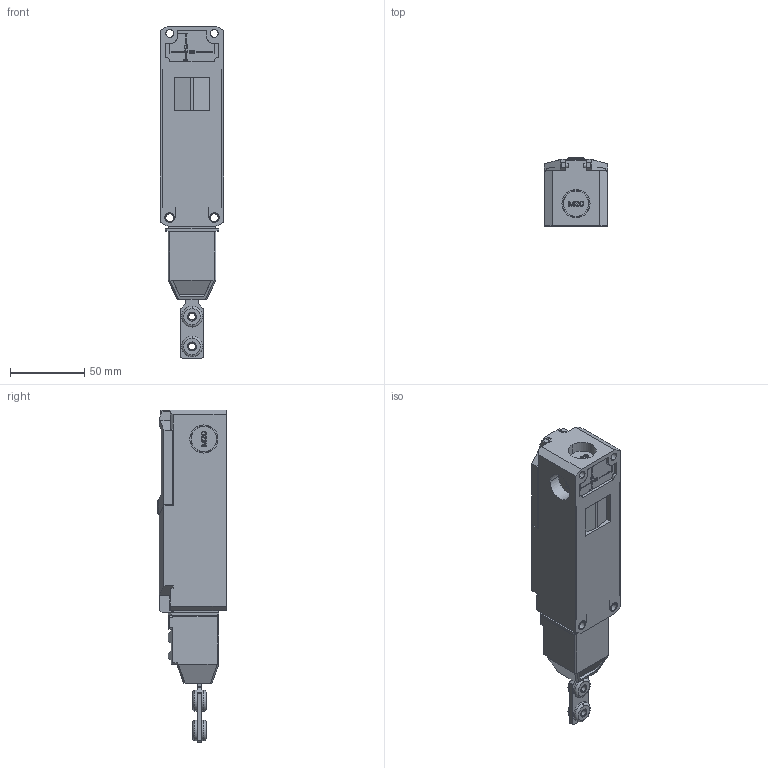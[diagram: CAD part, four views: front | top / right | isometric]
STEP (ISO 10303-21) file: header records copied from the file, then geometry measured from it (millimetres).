
FILE_DESCRIPTION((''),'2;1');
FILE_NAME('2015394_ASM','2014-03-24T',('lwegerer'),(''),'PRO/ENGINEER BY PARAMETRIC TECHNOLOGY CORPORATION, 2011040','PRO/ENGINEER BY PARAMETRIC TECHNOLOGY CORPORATION, 2011040','');
FILE_SCHEMA(('AUTOMOTIVE_DESIGN_CC2 { 1 2 10303 214 -1 1 5 2 }'));
Products named in the file (4): 2015385; 2015386; 2015388; 2015394_ASM
Assembly tree (3 placements, depth 2):
  2015394_ASM
    2015385
    2015386
    2015388
Bounding box: 42.5 x 46 x 223.4 mm (x, y, z)
Volume: 129682.1 mm3; surface area: 98238.1 mm2
Topology: 5 solids, 7 shells, 2291 faces, 6402 edges, 4152 vertices
Faces by surface type: plane 1709, cylinder 420, torus 67, cone 57, sphere 25, bspline 9, extrusion 4
Entity records: 107761 total; most frequent: CARTESIAN_POINT 13874, ORIENTED_EDGE 12724, DIRECTION 11948, PRESENTATION_STYLE_ASSIGNMENT 8491, STYLED_ITEM 6385, CURVE_STYLE 6380, EDGE_CURVE 6362, VECTOR 5098
